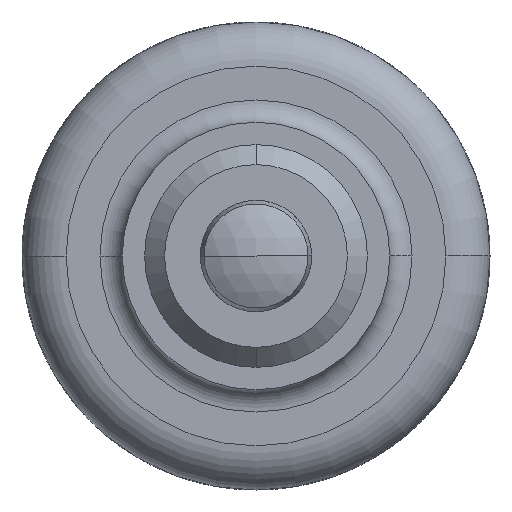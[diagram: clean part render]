
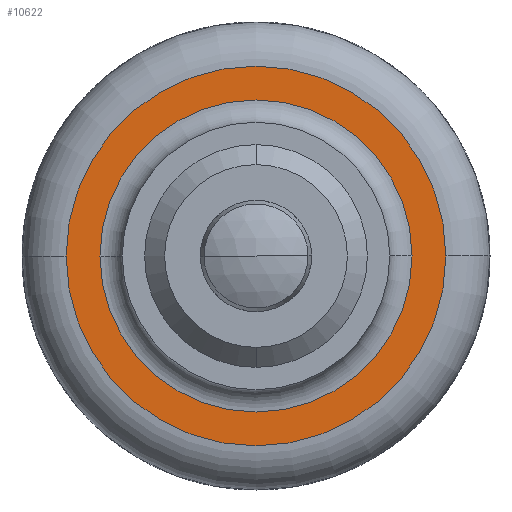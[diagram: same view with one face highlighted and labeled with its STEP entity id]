
A CAD part, front view. The second image highlights one B-rep face of the part: STEP entity #10622.
In plain terms, the highlighted planar face has unit normal (0, -1, 0).
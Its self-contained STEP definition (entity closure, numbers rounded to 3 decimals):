
#3781 = CARTESIAN_POINT ( 'NONE',  ( -7., 12.06, 0. ) ) ;
#3782 = CARTESIAN_POINT ( 'NONE',  ( 7., 12.06, 0. ) ) ;
#3783 = DIRECTION ( 'NONE',  ( -1., 0., 0. ) ) ;
#3784 = DIRECTION ( 'NONE',  ( 0., 1., 0. ) ) ;
#3785 = CARTESIAN_POINT ( 'NONE',  ( 0., 12.06, 0. ) ) ;
#3786 = AXIS2_PLACEMENT_3D ( 'NONE', #3785, #3784, #3783 ) ;
#3787 = CIRCLE ( 'NONE', #3786, 7. ) ;
#3799 = CARTESIAN_POINT ( 'NONE',  ( -8.52, 12.06, 0. ) ) ;
#3800 = CARTESIAN_POINT ( 'NONE',  ( 8.52, 12.06, 0. ) ) ;
#4584 = CIRCLE ( 'NONE', #4644, 8.52 ) ;
#4588 = CARTESIAN_POINT ( 'NONE',  ( 0., 12.06, 0. ) ) ;
#4642 = DIRECTION ( 'NONE',  ( -1., 0., 0. ) ) ;
#4643 = DIRECTION ( 'NONE',  ( 0., -1., 0. ) ) ;
#4644 = AXIS2_PLACEMENT_3D ( 'NONE', #4588, #4643, #4642 ) ;
#7772 = DIRECTION ( 'NONE',  ( -1., 0., 0. ) ) ;
#7773 = DIRECTION ( 'NONE',  ( 0., 1., 0. ) ) ;
#7774 = CARTESIAN_POINT ( 'NONE',  ( 0., 12.06, 0. ) ) ;
#7779 = AXIS2_PLACEMENT_3D ( 'NONE', #7774, #7773, #7772 ) ;
#7780 = PLANE ( 'NONE',  #7779 ) ;
#7781 = FACE_OUTER_BOUND ( 'NONE', #10670, .T. ) ;
#7783 = FACE_BOUND ( 'NONE', #10623, .T. ) ;
#7803 = CARTESIAN_POINT ( 'NONE',  ( 0., 12.06, 0. ) ) ;
#7909 = DIRECTION ( 'NONE',  ( -1., 0., 0. ) ) ;
#7910 = DIRECTION ( 'NONE',  ( 0., -1., 0. ) ) ;
#7911 = AXIS2_PLACEMENT_3D ( 'NONE', #7803, #7910, #7909 ) ;
#7912 = CIRCLE ( 'NONE', #7911, 8.52 ) ;
#7939 = DIRECTION ( 'NONE',  ( -1., 0., 0. ) ) ;
#7941 = DIRECTION ( 'NONE',  ( 0., 1., 0. ) ) ;
#7943 = CARTESIAN_POINT ( 'NONE',  ( 0., 12.06, 0. ) ) ;
#7945 = AXIS2_PLACEMENT_3D ( 'NONE', #7943, #7941, #7939 ) ;
#7946 = CIRCLE ( 'NONE', #7945, 7. ) ;
#10175 = VERTEX_POINT ( 'NONE', #3800 ) ;
#10176 = VERTEX_POINT ( 'NONE', #3799 ) ;
#10184 = EDGE_CURVE ( 'NONE', #10185, #10186, #3787, .T. ) ;
#10185 = VERTEX_POINT ( 'NONE', #3782 ) ;
#10186 = VERTEX_POINT ( 'NONE', #3781 ) ;
#10494 = EDGE_CURVE ( 'NONE', #10175, #10176, #4584, .T. ) ;
#10622 = ADVANCED_FACE ( 'NONE', ( #7783, #7781 ), #7780, .F. ) ;
#10623 = EDGE_LOOP ( 'NONE', ( #10649, #10672 ) ) ;
#10649 = ORIENTED_EDGE ( 'NONE', *, *, #10683, .T. ) ;
#10654 = EDGE_CURVE ( 'NONE', #10176, #10175, #7912, .T. ) ;
#10655 = ORIENTED_EDGE ( 'NONE', *, *, #10494, .T. ) ;
#10670 = EDGE_LOOP ( 'NONE', ( #10671, #10655 ) ) ;
#10671 = ORIENTED_EDGE ( 'NONE', *, *, #10654, .T. ) ;
#10672 = ORIENTED_EDGE ( 'NONE', *, *, #10184, .T. ) ;
#10683 = EDGE_CURVE ( 'NONE', #10186, #10185, #7946, .T. ) ;
